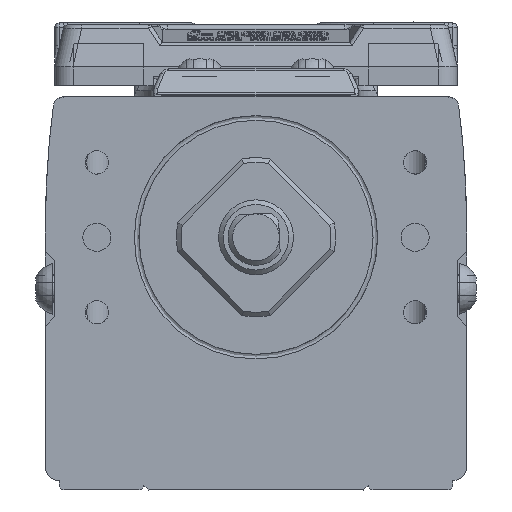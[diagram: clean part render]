
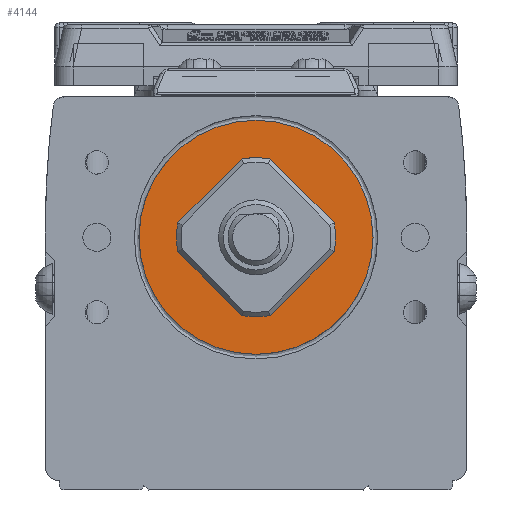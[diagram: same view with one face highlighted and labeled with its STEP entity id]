
A CAD part, left-side view. The second image highlights one B-rep face of the part: STEP entity #4144.
In plain terms, the highlighted planar face has unit normal (-1, 0, 0) as drawn and (0, 0, 1) by its records, which use the part's own axes.
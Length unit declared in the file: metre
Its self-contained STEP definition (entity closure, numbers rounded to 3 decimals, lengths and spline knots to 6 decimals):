
#4144=ADVANCED_FACE('',(#8426,#8427),#8428,.T.);
#8426=FACE_OUTER_BOUND('',#14985,.T.);
#8427=FACE_BOUND('',#14986,.T.);
#8428=PLANE('',#14987);
#14985=EDGE_LOOP('',(#26023));
#14986=EDGE_LOOP('',(#26024));
#14987=AXIS2_PLACEMENT_3D('',#26025,#26026,#26027);
#26023=ORIENTED_EDGE('',*,*,#29315,.T.);
#26024=ORIENTED_EDGE('',*,*,#32495,.F.);
#26025=CARTESIAN_POINT('',(0.000046,-0.005386,0.018));
#26026=DIRECTION('',(0.0,0.0,1.0));
#26027=DIRECTION('',(1.0,0.0,0.0));
#29315=EDGE_CURVE('',#34363,#34363,#34364,.T.);
#32495=EDGE_CURVE('',#39182,#39182,#39183,.T.);
#34363=VERTEX_POINT('',#41652);
#34364=CIRCLE('',#41653,0.0125);
#39182=VERTEX_POINT('',#49153);
#39183=CIRCLE('',#49154,0.004);
#41652=CARTESIAN_POINT('',(-0.0125,0.,0.018));
#41653=AXIS2_PLACEMENT_3D('',#51482,#51483,#51484);
#49153=CARTESIAN_POINT('',(0.004,0.0,0.018));
#49154=AXIS2_PLACEMENT_3D('',#55142,#55143,#55144);
#51482=CARTESIAN_POINT('',(0.0,0.,0.018));
#51483=DIRECTION('',(0.0,0.0,1.0));
#51484=DIRECTION('',(1.0,0.0,0.0));
#55142=CARTESIAN_POINT('',(0.0,0.0,0.018));
#55143=DIRECTION('',(0.0,0.0,1.0));
#55144=DIRECTION('',(-1.0,0.0,0.0));
